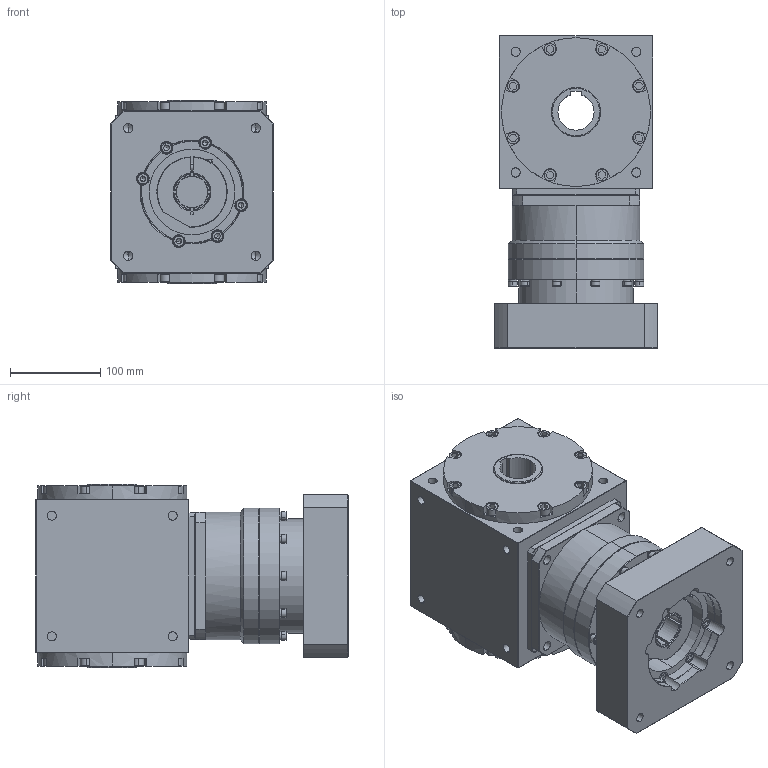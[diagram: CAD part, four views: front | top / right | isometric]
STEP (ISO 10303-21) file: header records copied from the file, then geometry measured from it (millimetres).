
FILE_DESCRIPTION (( 'STEP AP203' ), '1' );
FILE_NAME ('AT170-FH-L1 35-114.3-200-M12.STEP', '2024-12-26T00:56:20', ( '' ), ( '' ), 'SwSTEP 2.0', 'SolidWorks 2021', '' );
FILE_SCHEMA (( 'CONFIG_CONTROL_DESIGN' ));
Length unit declared in the file: millimetre
Products named in the file (3): VRB-142-L1-S2-P1 35-114.3-200-M12; AT170-FH; AT170-FH-L1 35-114.3-200-M12
Assembly tree (2 placements, depth 2):
  AT170-FH-L1 35-114.3-200-M12
    AT170-FH
    VRB-142-L1-S2-P1 35-114.3-200-M12
Bounding box: 180 x 347 x 204 mm (x, y, z)
Volume: 8498550.2 mm3; surface area: 557606.9 mm2
Topology: 40 solids, 40 shells, 1309 faces, 3199 edges, 1998 vertices
Faces by surface type: plane 661, cylinder 453, cone 157, torus 34, bspline 4
Entity records: 38727 total; most frequent: CARTESIAN_POINT 7551, DIRECTION 6700, ORIENTED_EDGE 6286, EDGE_CURVE 3143, AXIS2_PLACEMENT_3D 2531, VERTEX_POINT 1998, VECTOR 1638, LINE 1638
